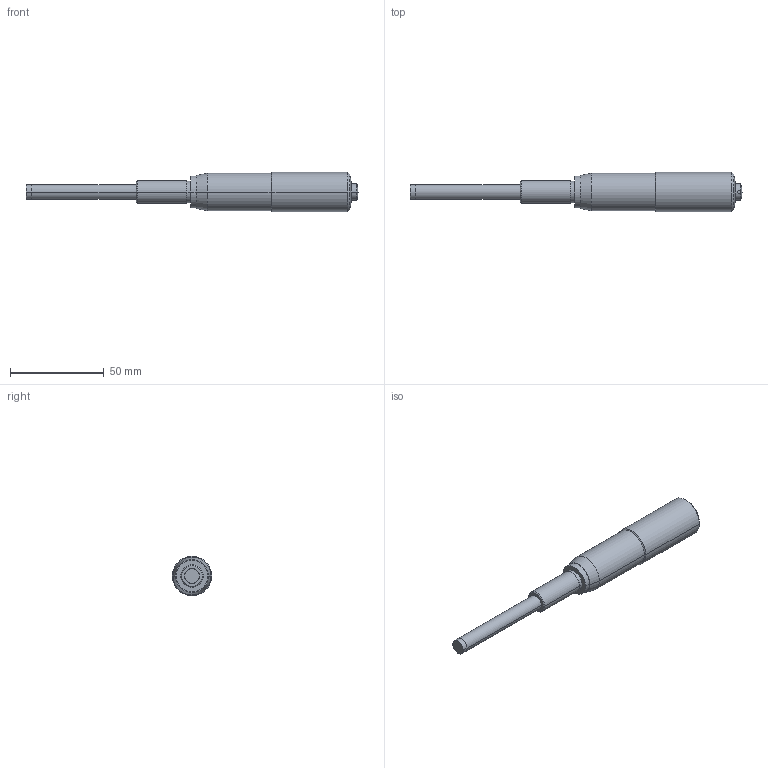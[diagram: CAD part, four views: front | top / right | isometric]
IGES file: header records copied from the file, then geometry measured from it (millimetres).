
Start section: Elysium IGES Interface
Global section: file name: 69HR:\01_商品設計部\01_MK外ﾃｰﾏ(U)\15_MH_3D\IGESﾌｧｲﾙ\151-260_MHH1-50T.igs; native system: Creo Elements/Direct Modeling 18.1B  29-Sep-2012; preprocessor: Creo Element/Direct IGES_3D V2.2; author: Unknown; organization: Unknown; date: 20140624.085059; units: millimetre
Bounding box: 177.5 x 21 x 21 mm (x, y, z)
Volume: 34193.4 mm3; surface area: 8661.1 mm2
Topology: 1 solids, 1 shells, 37 faces, 74 edges, 43 vertices
Faces by surface type: bspline 37
